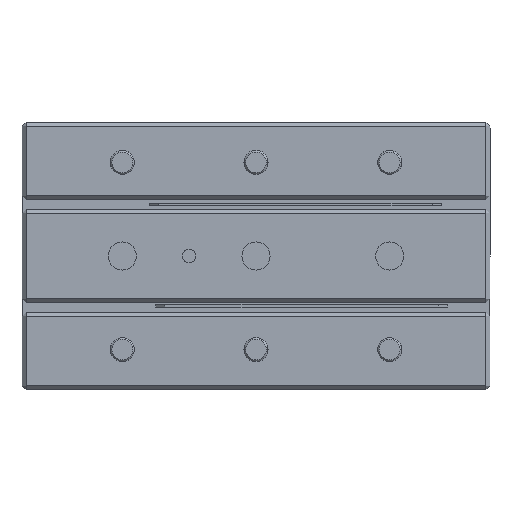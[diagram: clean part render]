
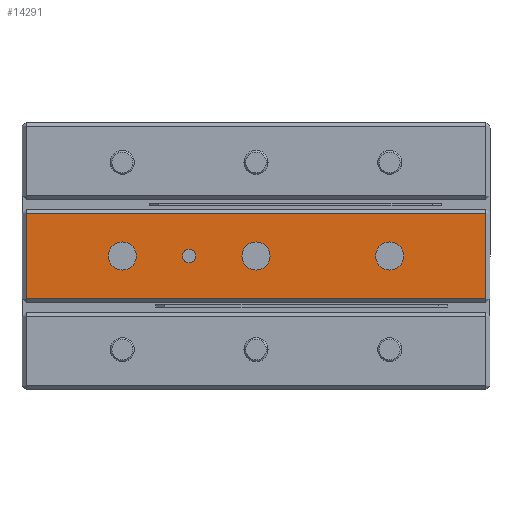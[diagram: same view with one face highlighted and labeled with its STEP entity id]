
A CAD part, front view. The second image highlights one B-rep face of the part: STEP entity #14291.
In plain terms, the highlighted planar face has unit normal (0, -1, 0).
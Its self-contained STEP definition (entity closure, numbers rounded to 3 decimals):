
#552 = CARTESIAN_POINT ( 'NONE',  ( -2.26, -1.231, 0. ) ) ;
#553 = DIRECTION ( 'NONE',  ( 0., 1., 0. ) ) ;
#554 = DIRECTION ( 'NONE',  ( 0., 0., 1. ) ) ;
#561 = CARTESIAN_POINT ( 'NONE',  ( -7.26, -1.231, 0. ) ) ;
#562 = DIRECTION ( 'NONE',  ( 0., 1., 0. ) ) ;
#563 = DIRECTION ( 'NONE',  ( 0., 0., 1. ) ) ;
#581 = CARTESIAN_POINT ( 'NONE',  ( -12.26, -1.231, 0. ) ) ;
#582 = DIRECTION ( 'NONE',  ( 0., 1., 0. ) ) ;
#583 = DIRECTION ( 'NONE',  ( 0., 0., 1. ) ) ;
#591 = CARTESIAN_POINT ( 'NONE',  ( 7.74, -1.231, 0. ) ) ;
#592 = DIRECTION ( 'NONE',  ( 0., 1., 0. ) ) ;
#593 = DIRECTION ( 'NONE',  ( 0., 0., 1. ) ) ;
#827 = CARTESIAN_POINT ( 'NONE',  ( -2.26, -1.231, 1.05 ) ) ;
#828 = CARTESIAN_POINT ( 'NONE',  ( -7.26, -1.231, -0.5 ) ) ;
#829 = CARTESIAN_POINT ( 'NONE',  ( -2.26, -1.231, -1.05 ) ) ;
#832 = CARTESIAN_POINT ( 'NONE',  ( -7.26, -1.231, 0.5 ) ) ;
#835 = CARTESIAN_POINT ( 'NONE',  ( -12.26, -1.231, -1.05 ) ) ;
#836 = CARTESIAN_POINT ( 'NONE',  ( -12.26, -1.231, 1.05 ) ) ;
#839 = CARTESIAN_POINT ( 'NONE',  ( 7.74, -1.231, -1.05 ) ) ;
#840 = CARTESIAN_POINT ( 'NONE',  ( 7.74, -1.231, 1.05 ) ) ;
#909 = CARTESIAN_POINT ( 'NONE',  ( -19.46, -1.231, -3.2 ) ) ;
#913 = CARTESIAN_POINT ( 'NONE',  ( -19.46, -1.231, 3.2 ) ) ;
#918 = CARTESIAN_POINT ( 'NONE',  ( 14.94, -1.231, -3.2 ) ) ;
#937 = CARTESIAN_POINT ( 'NONE',  ( 14.94, -1.231, 3.2 ) ) ;
#1497 = CARTESIAN_POINT ( 'NONE',  ( 7.74, -1.231, 0. ) ) ;
#1499 = DIRECTION ( 'NONE',  ( 0., 1., 0. ) ) ;
#1501 = DIRECTION ( 'NONE',  ( 0., 0., 1. ) ) ;
#1514 = CARTESIAN_POINT ( 'NONE',  ( -12.26, -1.231, 0. ) ) ;
#1516 = DIRECTION ( 'NONE',  ( 0., 1., 0. ) ) ;
#1518 = DIRECTION ( 'NONE',  ( 0., 0., 1. ) ) ;
#2023 = CARTESIAN_POINT ( 'NONE',  ( -19.46, -1.231, 3.5 ) ) ;
#2041 = CARTESIAN_POINT ( 'NONE',  ( -19.76, -1.231, -3.2 ) ) ;
#2044 = DIRECTION ( 'NONE',  ( 0., 0., -1. ) ) ;
#2053 = DIRECTION ( 'NONE',  ( 1., 0., 0. ) ) ;
#2186 = CARTESIAN_POINT ( 'NONE',  ( 14.94, -1.231, 3.5 ) ) ;
#2192 = CARTESIAN_POINT ( 'NONE',  ( -19.76, -1.231, 3.2 ) ) ;
#2197 = DIRECTION ( 'NONE',  ( 0., 0., 1. ) ) ;
#2200 = DIRECTION ( 'NONE',  ( -1., 0., 0. ) ) ;
#2201 = CARTESIAN_POINT ( 'NONE',  ( -7.26, -1.231, 0. ) ) ;
#2202 = DIRECTION ( 'NONE',  ( 0., 1., 0. ) ) ;
#2203 = DIRECTION ( 'NONE',  ( 0., 0., 1. ) ) ;
#2211 = CARTESIAN_POINT ( 'NONE',  ( -2.26, -1.231, 0. ) ) ;
#2212 = DIRECTION ( 'NONE',  ( 0., 1., 0. ) ) ;
#2213 = DIRECTION ( 'NONE',  ( 0., 0., 1. ) ) ;
#4856 = FACE_BOUND ( 'NONE', #25162, .T. ) ;
#4906 = FACE_BOUND ( 'NONE', #25154, .T. ) ;
#4907 = FACE_BOUND ( 'NONE', #25158, .T. ) ;
#4908 = FACE_BOUND ( 'NONE', #25161, .T. ) ;
#4910 = FACE_OUTER_BOUND ( 'NONE', #25157, .T. ) ;
#10377 = AXIS2_PLACEMENT_3D ( 'NONE', #12184, #12177, #12186 ) ;
#10682 = AXIS2_PLACEMENT_3D ( 'NONE', #552, #553, #554 ) ;
#10684 = AXIS2_PLACEMENT_3D ( 'NONE', #561, #562, #563 ) ;
#10688 = AXIS2_PLACEMENT_3D ( 'NONE', #581, #582, #583 ) ;
#10690 = AXIS2_PLACEMENT_3D ( 'NONE', #591, #592, #593 ) ;
#10692 = AXIS2_PLACEMENT_3D ( 'NONE', #1497, #1499, #1501 ) ;
#10694 = AXIS2_PLACEMENT_3D ( 'NONE', #1514, #1516, #1518 ) ;
#10711 = AXIS2_PLACEMENT_3D ( 'NONE', #2201, #2202, #2203 ) ;
#10713 = AXIS2_PLACEMENT_3D ( 'NONE', #2211, #2212, #2213 ) ;
#12177 = DIRECTION ( 'NONE',  ( 0., 1., 0. ) ) ;
#12182 = PLANE ( 'NONE',  #10377 ) ;
#12184 = CARTESIAN_POINT ( 'NONE',  ( -19.76, -1.231, 3.5 ) ) ;
#12186 = DIRECTION ( 'NONE',  ( 0., 0., 1. ) ) ;
#14291 = ADVANCED_FACE ( 'NONE', ( #4907, #4910, #4856, #4906, #4908 ), #12182, .F. ) ;
#24750 = EDGE_CURVE ( 'NONE', #25590, #25588, #45008, .T. ) ;
#24753 = EDGE_CURVE ( 'NONE', #25589, #25593, #45034, .T. ) ;
#24761 = EDGE_CURVE ( 'NONE', #25596, #25597, #45045, .T. ) ;
#24765 = EDGE_CURVE ( 'NONE', #25600, #25601, #45051, .T. ) ;
#25154 = EDGE_LOOP ( 'NONE', ( #27207, #27208 ) ) ;
#25157 = EDGE_LOOP ( 'NONE', ( #27201, #27202, #27203, #27204 ) ) ;
#25158 = EDGE_LOOP ( 'NONE', ( #27199, #27200 ) ) ;
#25161 = EDGE_LOOP ( 'NONE', ( #27209, #27210 ) ) ;
#25162 = EDGE_LOOP ( 'NONE', ( #27205, #27206 ) ) ;
#25588 = VERTEX_POINT ( 'NONE', #827 ) ;
#25589 = VERTEX_POINT ( 'NONE', #828 ) ;
#25590 = VERTEX_POINT ( 'NONE', #829 ) ;
#25593 = VERTEX_POINT ( 'NONE', #832 ) ;
#25596 = VERTEX_POINT ( 'NONE', #835 ) ;
#25597 = VERTEX_POINT ( 'NONE', #836 ) ;
#25600 = VERTEX_POINT ( 'NONE', #839 ) ;
#25601 = VERTEX_POINT ( 'NONE', #840 ) ;
#25670 = VERTEX_POINT ( 'NONE', #909 ) ;
#25674 = VERTEX_POINT ( 'NONE', #913 ) ;
#25679 = VERTEX_POINT ( 'NONE', #918 ) ;
#25698 = VERTEX_POINT ( 'NONE', #937 ) ;
#26529 = EDGE_CURVE ( 'NONE', #25601, #25600, #45068, .T. ) ;
#26531 = EDGE_CURVE ( 'NONE', #25597, #25596, #45071, .T. ) ;
#26631 = EDGE_CURVE ( 'NONE', #25674, #25670, #45244, .T. ) ;
#26633 = EDGE_CURVE ( 'NONE', #25670, #25679, #45250, .T. ) ;
#26671 = EDGE_CURVE ( 'NONE', #25679, #25698, #45313, .T. ) ;
#26673 = EDGE_CURVE ( 'NONE', #25698, #25674, #45317, .T. ) ;
#26674 = EDGE_CURVE ( 'NONE', #25593, #25589, #45323, .T. ) ;
#26676 = EDGE_CURVE ( 'NONE', #25588, #25590, #45326, .T. ) ;
#27199 = ORIENTED_EDGE ( 'NONE', *, *, #26674, .T. ) ;
#27200 = ORIENTED_EDGE ( 'NONE', *, *, #24753, .T. ) ;
#27201 = ORIENTED_EDGE ( 'NONE', *, *, #26673, .T. ) ;
#27202 = ORIENTED_EDGE ( 'NONE', *, *, #26631, .T. ) ;
#27203 = ORIENTED_EDGE ( 'NONE', *, *, #26633, .T. ) ;
#27204 = ORIENTED_EDGE ( 'NONE', *, *, #26671, .T. ) ;
#27205 = ORIENTED_EDGE ( 'NONE', *, *, #26676, .T. ) ;
#27206 = ORIENTED_EDGE ( 'NONE', *, *, #24750, .T. ) ;
#27207 = ORIENTED_EDGE ( 'NONE', *, *, #26531, .T. ) ;
#27208 = ORIENTED_EDGE ( 'NONE', *, *, #24761, .T. ) ;
#27209 = ORIENTED_EDGE ( 'NONE', *, *, #26529, .T. ) ;
#27210 = ORIENTED_EDGE ( 'NONE', *, *, #24765, .T. ) ;
#45008 = CIRCLE ( 'NONE', #10682, 1.05 ) ;
#45034 = CIRCLE ( 'NONE', #10684, 0.5 ) ;
#45045 = CIRCLE ( 'NONE', #10688, 1.05 ) ;
#45051 = CIRCLE ( 'NONE', #10690, 1.05 ) ;
#45068 = CIRCLE ( 'NONE', #10692, 1.05 ) ;
#45071 = CIRCLE ( 'NONE', #10694, 1.05 ) ;
#45244 = LINE ( 'NONE', #2023, #45251 ) ;
#45250 = LINE ( 'NONE', #2041, #45255 ) ;
#45251 = VECTOR ( 'NONE', #2044, 1000. ) ;
#45255 = VECTOR ( 'NONE', #2053, 1000. ) ;
#45313 = LINE ( 'NONE', #2186, #45320 ) ;
#45317 = LINE ( 'NONE', #2192, #45324 ) ;
#45320 = VECTOR ( 'NONE', #2197, 1000. ) ;
#45323 = CIRCLE ( 'NONE', #10711, 0.5 ) ;
#45324 = VECTOR ( 'NONE', #2200, 1000. ) ;
#45326 = CIRCLE ( 'NONE', #10713, 1.05 ) ;
